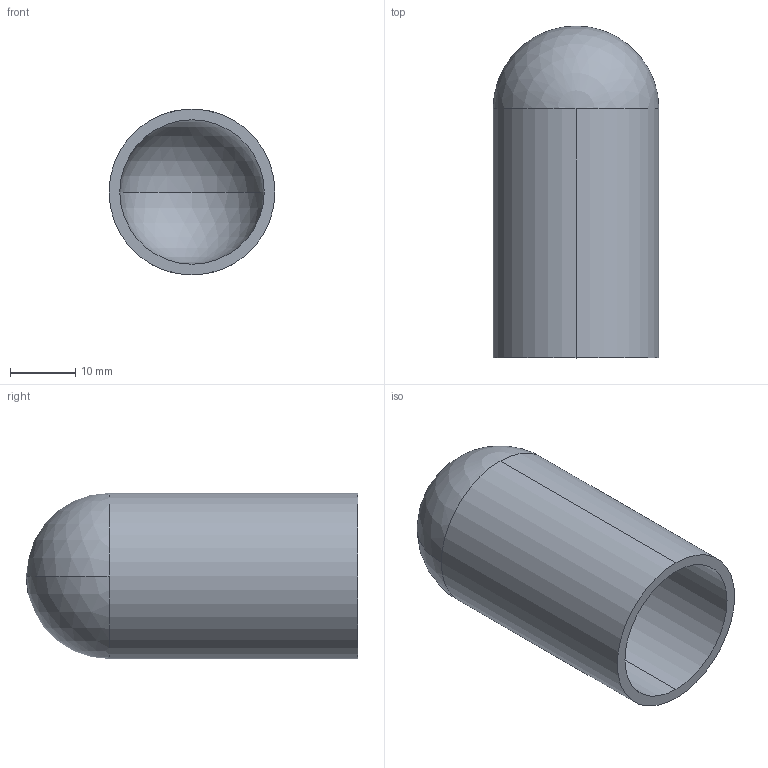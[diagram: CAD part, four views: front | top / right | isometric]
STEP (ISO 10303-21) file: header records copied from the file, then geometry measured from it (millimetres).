
FILE_DESCRIPTION (( 'STEP AP214' ), '1' );
FILE_NAME ('TE16W6L1.0-...STEP', '2016-06-01T13:54:42', ( 'eran' ), ( '' ), 'SwSTEP 2.0', 'SolidWorks 2016', '' );
FILE_SCHEMA (( 'AUTOMOTIVE_DESIGN' ));
Length unit declared in the file: millimetre
Products named in the file (1): TE16W6L1.0-..
Bounding box: 25.4 x 50.8 x 25.4 mm (x, y, z)
Volume: 6154.8 mm3; surface area: 7589.2 mm2
Topology: 1 solids, 1 shells, 9 faces, 24 edges, 14 vertices
Faces by surface type: cylinder 4, sphere 4, plane 1
Entity records: 300 total; most frequent: DIRECTION 56, CARTESIAN_POINT 44, ORIENTED_EDGE 40, AXIS2_PLACEMENT_3D 26, EDGE_CURVE 20, CIRCLE 16, VERTEX_POINT 14, EDGE_LOOP 10
